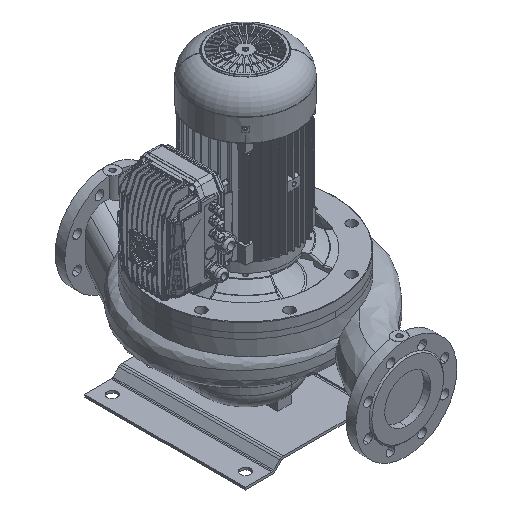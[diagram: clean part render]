
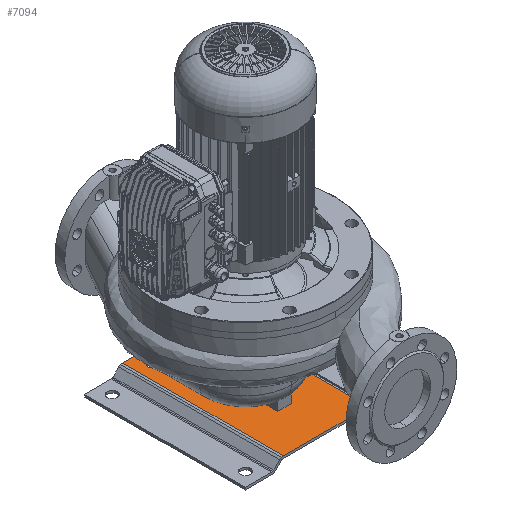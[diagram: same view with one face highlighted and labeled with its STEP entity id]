
A CAD part, isometric view. The second image highlights one B-rep face of the part: STEP entity #7094.
In plain terms, the highlighted planar face has unit normal (0, 0, 1) as drawn and (0, 1, 0) by its records, which use the part's own axes.
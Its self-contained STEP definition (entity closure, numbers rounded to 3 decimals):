
#7094=ADVANCED_FACE('',(#17429,#17430,#17431,#17432,#17433,#17434),#17435,.T.);
#7138=EDGE_CURVE('',#17509,#17510,#17511,.T.);
#17429=FACE_BOUND('',#34607,.T.);
#17430=FACE_BOUND('',#34608,.T.);
#17431=FACE_BOUND('',#34609,.T.);
#17432=FACE_BOUND('',#34610,.T.);
#17433=FACE_BOUND('',#34611,.T.);
#17434=FACE_OUTER_BOUND('',#34612,.T.);
#17435=PLANE('',#34613);
#17509=VERTEX_POINT('',#34696);
#17510=VERTEX_POINT('',#34697);
#17511=LINE('',#34698,#34699);
#34607=EDGE_LOOP('',(#104741,#104742));
#34608=EDGE_LOOP('',(#104743,#104744));
#34609=EDGE_LOOP('',(#104745,#104746));
#34610=EDGE_LOOP('',(#104747,#104748));
#34611=EDGE_LOOP('',(#104749,#104750));
#34612=EDGE_LOOP('',(#104751,#104752,#104753,#104754));
#34613=AXIS2_PLACEMENT_3D('',#104755,#104756,#104757);
#34696=CARTESIAN_POINT('',(82.556,23.0,0.0));
#34697=CARTESIAN_POINT('',(267.444,23.0,0.0));
#34698=CARTESIAN_POINT('',(78.0,23.0,0.0));
#34699=VECTOR('',#104956,1.0);
#104741=ORIENTED_EDGE('',*,*,#141926,.T.);
#104742=ORIENTED_EDGE('',*,*,#141916,.T.);
#104743=ORIENTED_EDGE('',*,*,#141929,.T.);
#104744=ORIENTED_EDGE('',*,*,#141911,.T.);
#104745=ORIENTED_EDGE('',*,*,#141935,.T.);
#104746=ORIENTED_EDGE('',*,*,#141901,.T.);
#104747=ORIENTED_EDGE('',*,*,#141941,.T.);
#104748=ORIENTED_EDGE('',*,*,#141891,.T.);
#104749=ORIENTED_EDGE('',*,*,#141947,.T.);
#104750=ORIENTED_EDGE('',*,*,#141881,.T.);
#104751=ORIENTED_EDGE('',*,*,#141964,.F.);
#104752=ORIENTED_EDGE('',*,*,#141965,.F.);
#104753=ORIENTED_EDGE('',*,*,#141865,.F.);
#104754=ORIENTED_EDGE('',*,*,#7138,.F.);
#104755=CARTESIAN_POINT('',(126.5,23.0,0.0));
#104756=DIRECTION('',(0.0,1.0,0.0));
#104757=DIRECTION('',(-1.0,0.0,0.0));
#104956=DIRECTION('',(1.0,0.0,0.0));
#141865=EDGE_CURVE('',#17510,#166864,#166865,.T.);
#141881=EDGE_CURVE('',#166885,#166889,#166891,.T.);
#141891=EDGE_CURVE('',#166903,#166907,#166909,.T.);
#141901=EDGE_CURVE('',#166921,#166925,#166927,.T.);
#141911=EDGE_CURVE('',#166939,#166943,#166945,.T.);
#141916=EDGE_CURVE('',#166948,#166952,#166954,.T.);
#141926=EDGE_CURVE('',#166952,#166948,#166968,.T.);
#141929=EDGE_CURVE('',#166943,#166939,#166971,.T.);
#141935=EDGE_CURVE('',#166925,#166921,#166977,.T.);
#141941=EDGE_CURVE('',#166907,#166903,#166983,.T.);
#141947=EDGE_CURVE('',#166889,#166885,#166989,.T.);
#141964=EDGE_CURVE('',#167012,#17509,#167013,.T.);
#141965=EDGE_CURVE('',#166864,#167012,#167014,.T.);
#166864=VERTEX_POINT('',#198632);
#166865=LINE('',#198633,#198634);
#166885=VERTEX_POINT('',#198658);
#166889=VERTEX_POINT('',#198663);
#166891=CIRCLE('',#198666,7.0);
#166903=VERTEX_POINT('',#198680);
#166907=VERTEX_POINT('',#198685);
#166909=CIRCLE('',#198688,7.0);
#166921=VERTEX_POINT('',#198702);
#166925=VERTEX_POINT('',#198707);
#166927=CIRCLE('',#198710,7.0);
#166939=VERTEX_POINT('',#198724);
#166943=VERTEX_POINT('',#198729);
#166945=CIRCLE('',#198732,7.);
#166948=VERTEX_POINT('',#198735);
#166952=VERTEX_POINT('',#198740);
#166954=CIRCLE('',#198743,7.0);
#166968=CIRCLE('',#198759,7.0);
#166971=CIRCLE('',#198762,7.);
#166977=CIRCLE('',#198768,7.0);
#166983=CIRCLE('',#198774,7.0);
#166989=CIRCLE('',#198780,7.0);
#167012=VERTEX_POINT('',#198813);
#167013=LINE('',#198814,#198815);
#167014=LINE('',#198816,#198817);
#198632=CARTESIAN_POINT('',(267.444,23.0,350.0));
#198633=CARTESIAN_POINT('',(267.444,23.0,0.0));
#198634=VECTOR('',#282090,1.0);
#198658=CARTESIAN_POINT('',(240.,23.0,308.0));
#198663=CARTESIAN_POINT('',(240.,23.0,322.0));
#198666=AXIS2_PLACEMENT_3D('',#282115,#282116,#282117);
#198680=CARTESIAN_POINT('',(110.,23.0,308.0));
#198685=CARTESIAN_POINT('',(110.,23.0,322.0));
#198688=AXIS2_PLACEMENT_3D('',#282131,#282132,#282133);
#198702=CARTESIAN_POINT('',(130.,23.0,233.0));
#198707=CARTESIAN_POINT('',(130.,23.0,247.0));
#198710=AXIS2_PLACEMENT_3D('',#282147,#282148,#282149);
#198724=CARTESIAN_POINT('',(169.198,23.0,101.083));
#198729=CARTESIAN_POINT('',(180.802,23.0,108.917));
#198732=AXIS2_PLACEMENT_3D('',#282163,#282164,#282165);
#198735=CARTESIAN_POINT('',(220.,23.0,233.0));
#198740=CARTESIAN_POINT('',(220.,23.0,247.0));
#198743=AXIS2_PLACEMENT_3D('',#282171,#282172,#282173);
#198759=AXIS2_PLACEMENT_3D('',#282188,#282189,#282190);
#198762=AXIS2_PLACEMENT_3D('',#282194,#282195,#282196);
#198768=AXIS2_PLACEMENT_3D('',#282206,#282207,#282208);
#198774=AXIS2_PLACEMENT_3D('',#282218,#282219,#282220);
#198780=AXIS2_PLACEMENT_3D('',#282230,#282231,#282232);
#198813=CARTESIAN_POINT('',(82.556,23.0,350.0));
#198814=CARTESIAN_POINT('',(82.556,23.0,0.0));
#198815=VECTOR('',#282246,1.0);
#198816=CARTESIAN_POINT('',(272.,23.0,350.0));
#198817=VECTOR('',#282247,1.);
#282090=DIRECTION('',(0.0,0.0,1.0));
#282115=CARTESIAN_POINT('',(240.,23.0,315.0));
#282116=DIRECTION('',(0.0,-1.0,0.0));
#282117=DIRECTION('',(0.0,0.0,-1.0));
#282131=CARTESIAN_POINT('',(110.,23.0,315.0));
#282132=DIRECTION('',(0.0,-1.0,0.0));
#282133=DIRECTION('',(0.0,0.0,-1.0));
#282147=CARTESIAN_POINT('',(130.,23.0,240.0));
#282148=DIRECTION('',(0.0,-1.0,0.0));
#282149=DIRECTION('',(0.0,0.0,-1.0));
#282163=CARTESIAN_POINT('',(175.,23.0,105.0));
#282164=DIRECTION('',(-0.0,-1.0,0.0));
#282165=DIRECTION('',(-0.829,0.0,-0.56));
#282171=CARTESIAN_POINT('',(220.,23.0,240.0));
#282172=DIRECTION('',(0.0,-1.0,0.0));
#282173=DIRECTION('',(0.0,0.0,-1.0));
#282188=CARTESIAN_POINT('',(220.,23.0,240.0));
#282189=DIRECTION('',(0.0,-1.0,0.0));
#282190=DIRECTION('',(0.0,0.0,-1.0));
#282194=CARTESIAN_POINT('',(175.,23.0,105.0));
#282195=DIRECTION('',(-0.0,-1.0,0.0));
#282196=DIRECTION('',(-0.829,0.0,-0.56));
#282206=CARTESIAN_POINT('',(130.,23.0,240.0));
#282207=DIRECTION('',(0.0,-1.0,0.0));
#282208=DIRECTION('',(0.0,0.0,-1.0));
#282218=CARTESIAN_POINT('',(110.,23.0,315.0));
#282219=DIRECTION('',(0.0,-1.0,0.0));
#282220=DIRECTION('',(0.0,0.0,-1.0));
#282230=CARTESIAN_POINT('',(240.,23.0,315.0));
#282231=DIRECTION('',(0.0,-1.0,0.0));
#282232=DIRECTION('',(0.0,0.0,-1.0));
#282246=DIRECTION('',(0.0,0.0,-1.0));
#282247=DIRECTION('',(-1.0,0.0,0.0));
